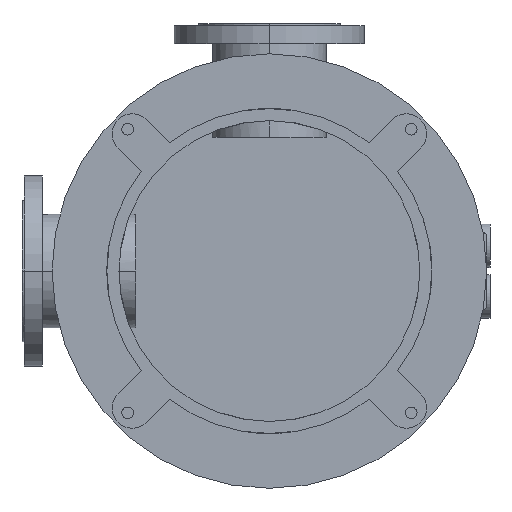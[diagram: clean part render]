
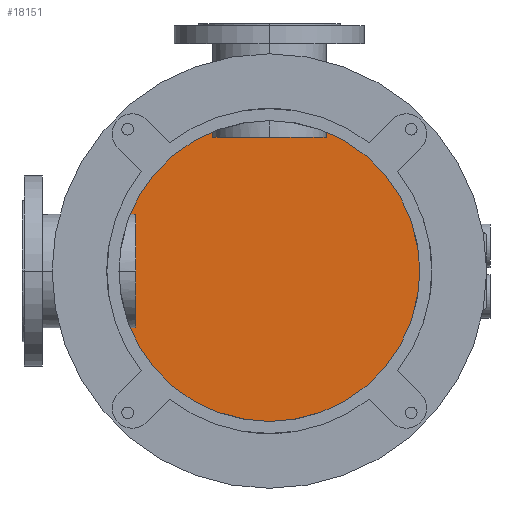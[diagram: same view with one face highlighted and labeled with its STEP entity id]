
A CAD part, front view. The second image highlights one B-rep face of the part: STEP entity #18151.
In plain terms, the highlighted planar face has unit normal (0, -1, 0).
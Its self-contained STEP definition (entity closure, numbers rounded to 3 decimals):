
#2780=CARTESIAN_POINT('',(0.,836.,0.));
#2781=DIRECTION('',(0.,-1.,0.));
#2782=DIRECTION('',(0.,0.,1.));
#2783=AXIS2_PLACEMENT_3D('',#2780,#2781,#2782);
#3032=CARTESIAN_POINT('',(0.,836.,0.));
#3033=DIRECTION('',(0.,-1.,0.));
#3034=DIRECTION('',(0.,0.,-1.));
#3035=AXIS2_PLACEMENT_3D('',#3032,#3033,#3034);
#8597=CARTESIAN_POINT('',(0.,836.,240.));
#8598=CARTESIAN_POINT('',(0.,836.,-240.));
#8599=VERTEX_POINT('',#8597);
#8600=VERTEX_POINT('',#8598);
#18142=CARTESIAN_POINT('',(0.,836.,0.));
#18143=DIRECTION('',(0.,1.,0.));
#18144=DIRECTION('',(0.,0.,-1.));
#18145=AXIS2_PLACEMENT_3D('',#18142,#18143,#18144);
#18146=PLANE('',#18145);
#18147=ORIENTED_EDGE('',*,*,#13750,.F.);
#18148=ORIENTED_EDGE('',*,*,#13924,.F.);
#18149=EDGE_LOOP('',(#18147,#18148));
#18150=FACE_OUTER_BOUND('',#18149,.F.);
#18151=ADVANCED_FACE('',(#18150),#18146,.F.);
#2784=CIRCLE('',#2783,240.);
#3036=CIRCLE('',#3035,240.);
#13750=EDGE_CURVE('',#8599,#8600,#2784,.T.);
#13924=EDGE_CURVE('',#8600,#8599,#3036,.T.);
